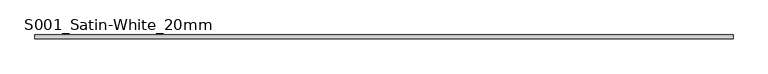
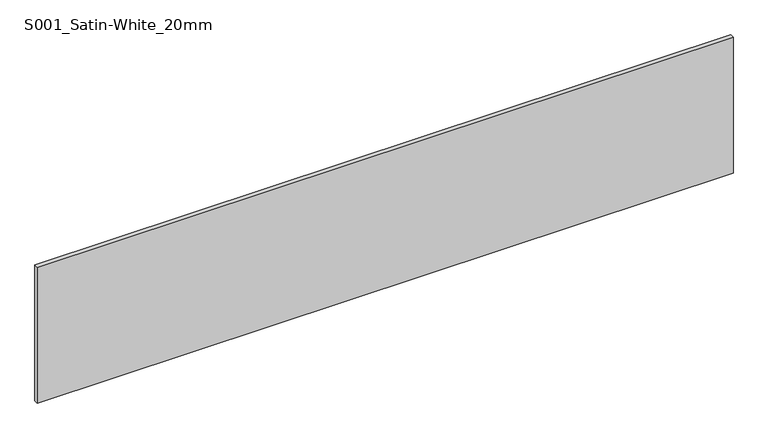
"""IFC4 building model written with IfcOpenShell, lengths in millimetres: plate geometry, Curtain-Panels_Outdoor-Material_HI-MACS_Solids : S001_Satin-White_20mm."""

from ifc_helpers import new_model, si_unit, origin, origin_with_axes, place, context, project, spatial, polyline, outline, extrude, source, transform, mapped, element, save


def s001_satin_white_20mm_e5290f1d(model_context):
    return source(origin(), model_context, "Body", "SweptSolid", [
        extrude(outline(polyline([(1840.0, 10.0), (1840.0, -10.0), (-1840.0, -10.0), (-1840.0, 10.0), (1840.0, 10.0)])), origin_with_axes(), (0.0, 0.0, 1.0), 760.0),
    ])


if __name__ == "__main__":
    model = new_model("IFC4")
    model_context = context("Model", 3, world=origin())
    ifc_project = project(units=[si_unit("LENGTHUNIT", "METRE", prefix="MILLI")], contexts=[model_context])
    site = spatial("IfcSite", under=ifc_project)
    building = spatial("IfcBuilding", under=site)
    placement = place(None, origin())
    s001_satin_white_20mm_shape = s001_satin_white_20mm_e5290f1d(model_context)
    element("IfcPlate", 1, ObjectType="Curtain-Panels_Outdoor-Material_HI-MACS_Solids : S001_Satin-White_20mm", at=placement, inside=building, context=model_context, shape_type="MappedRepresentation", body=[
        mapped(s001_satin_white_20mm_shape, transform((0.0, 0.0, 0.0), x_axis=(1.0, 0.0, 0.0), y_axis=(0.0, 1.0, 0.0), z_axis=(0.0, 0.0, 1.0))),
    ])
    save(model, "model.ifc")
